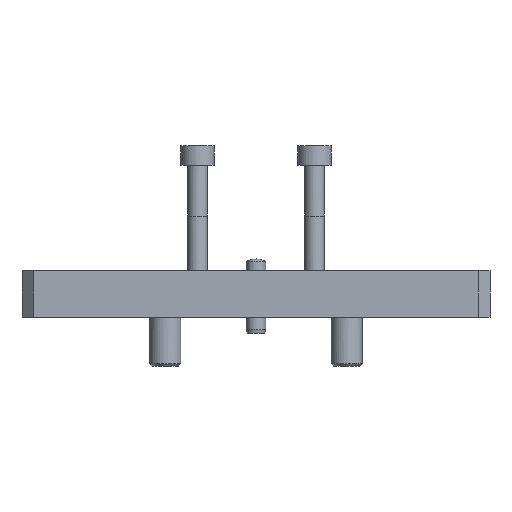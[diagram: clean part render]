
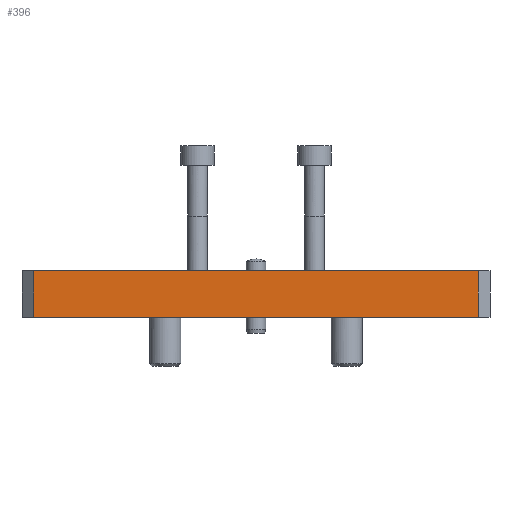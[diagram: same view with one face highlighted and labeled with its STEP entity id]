
A CAD part, left-side view. The second image highlights one B-rep face of the part: STEP entity #396.
In plain terms, the highlighted planar face has unit normal (-1, 0, 0).
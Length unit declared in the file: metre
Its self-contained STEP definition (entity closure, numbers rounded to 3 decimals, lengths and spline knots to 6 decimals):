
#396 = ADVANCED_FACE( '', ( #907 ), #908, .T. );
#907 = FACE_OUTER_BOUND( '', #1596, .T. );
#908 = PLANE( '', #1597 );
#1596 = EDGE_LOOP( '', ( #2594, #2595, #2596, #2597 ) );
#1597 = AXIS2_PLACEMENT_3D( '', #2598, #2599, #2600 );
#2594 = ORIENTED_EDGE( '', *, *, #3297, .T. );
#2595 = ORIENTED_EDGE( '', *, *, #3305, .T. );
#2596 = ORIENTED_EDGE( '', *, *, #3306, .F. );
#2597 = ORIENTED_EDGE( '', *, *, #3230, .T. );
#2598 = CARTESIAN_POINT( '', ( -0.06, -0.06, 0.012 ) );
#2599 = DIRECTION( '', ( -1., 0., 0. ) );
#2600 = DIRECTION( '', ( 0., -1., 0. ) );
#3230 = EDGE_CURVE( '', #3813, #3811, #3814, .T. );
#3297 = EDGE_CURVE( '', #3811, #3903, #3905, .T. );
#3305 = EDGE_CURVE( '', #3903, #3915, #3916, .T. );
#3306 = EDGE_CURVE( '', #3813, #3915, #3917, .T. );
#3811 = VERTEX_POINT( '', #4817 );
#3813 = VERTEX_POINT( '', #4820 );
#3814 = LINE( '', #4821, #4822 );
#3903 = VERTEX_POINT( '', #4933 );
#3905 = LINE( '', #4936, #4937 );
#3915 = VERTEX_POINT( '', #4951 );
#3916 = LINE( '', #4952, #4953 );
#3917 = LINE( '', #4954, #4955 );
#4817 = CARTESIAN_POINT( '', ( -0.06, -0.057, 0.012 ) );
#4820 = CARTESIAN_POINT( '', ( -0.06, -0.057, 0. ) );
#4821 = CARTESIAN_POINT( '', ( -0.06, -0.057, 0.012 ) );
#4822 = VECTOR( '', #5358, 1. );
#4933 = CARTESIAN_POINT( '', ( -0.06, 0.057, 0.012 ) );
#4936 = CARTESIAN_POINT( '', ( -0.06, -0.06, 0.012 ) );
#4937 = VECTOR( '', #5427, 1. );
#4951 = CARTESIAN_POINT( '', ( -0.06, 0.057, 0. ) );
#4952 = CARTESIAN_POINT( '', ( -0.06, 0.057, 0.012 ) );
#4953 = VECTOR( '', #5432, 1. );
#4954 = CARTESIAN_POINT( '', ( -0.06, -0.06, 0. ) );
#4955 = VECTOR( '', #5433, 1. );
#5358 = DIRECTION( '', ( 0., 0., 1. ) );
#5427 = DIRECTION( '', ( 0., 1., 0. ) );
#5432 = DIRECTION( '', ( 0., 0., -1. ) );
#5433 = DIRECTION( '', ( 0., 1., 0. ) );
